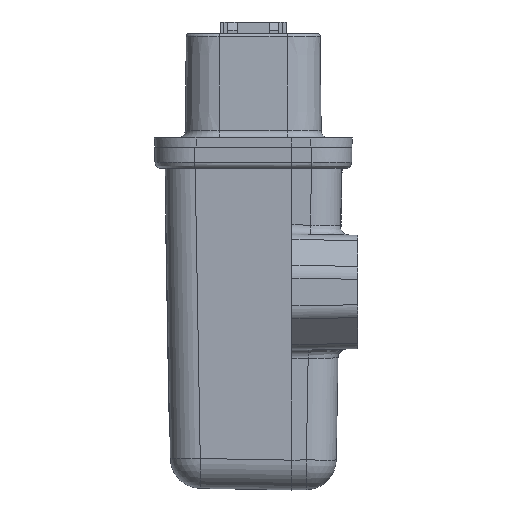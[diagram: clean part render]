
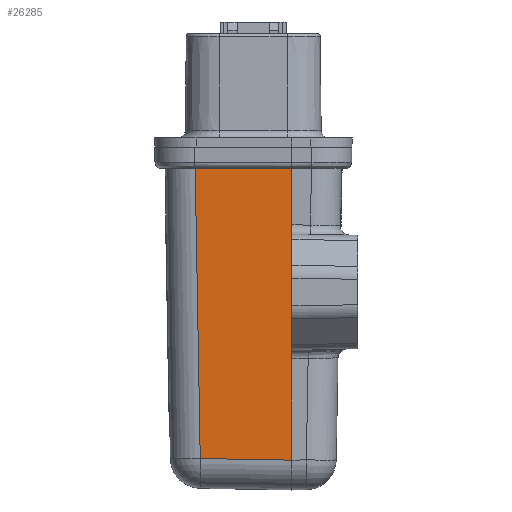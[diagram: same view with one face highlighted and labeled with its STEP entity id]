
A CAD part, left-side view. The second image highlights one B-rep face of the part: STEP entity #26285.
In plain terms, the highlighted planar face has unit normal (-1, 0.018, -0.017) as drawn and (0.017, 1, -0.017) by its records, which use the part's own axes.
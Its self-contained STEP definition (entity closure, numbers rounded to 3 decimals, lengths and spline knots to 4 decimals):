
#2268=LINE('',#40856,#4718);
#2438=LINE('',#42571,#4888);
#2442=LINE('',#42586,#4892);
#2443=LINE('',#42588,#4893);
#2444=LINE('',#42590,#4894);
#2445=LINE('',#42591,#4895);
#4718=VECTOR('',#30994,0.6264);
#4888=VECTOR('',#31472,0.8682);
#4892=VECTOR('',#31486,0.3652);
#4893=VECTOR('',#31487,1.8787);
#4894=VECTOR('',#31488,0.5937);
#4895=VECTOR('',#31489,0.6553);
#7802=PLANE('',#28160);
#9149=FACE_OUTER_BOUND('',#10725,.T.);
#10725=EDGE_LOOP('',(#20527,#20528,#20529,#20530,#20531,#20532));
#12729=VERTEX_POINT('',#40346);
#12755=VERTEX_POINT('',#40532);
#12809=VERTEX_POINT('',#40852);
#12811=VERTEX_POINT('',#40855);
#13073=VERTEX_POINT('',#42587);
#13074=VERTEX_POINT('',#42589);
#15513=EDGE_CURVE('',#12811,#12809,#2268,.T.);
#15850=EDGE_CURVE('',#12755,#12729,#2438,.T.);
#15858=EDGE_CURVE('',#12729,#12811,#2442,.T.);
#15859=EDGE_CURVE('',#13073,#12809,#2443,.T.);
#15860=EDGE_CURVE('',#13074,#13073,#2444,.T.);
#15861=EDGE_CURVE('',#13074,#12755,#2445,.T.);
#20527=ORIENTED_EDGE('',*,*,#15850,.T.);
#20528=ORIENTED_EDGE('',*,*,#15858,.T.);
#20529=ORIENTED_EDGE('',*,*,#15513,.T.);
#20530=ORIENTED_EDGE('',*,*,#15859,.F.);
#20531=ORIENTED_EDGE('',*,*,#15860,.F.);
#20532=ORIENTED_EDGE('',*,*,#15861,.T.);
#26285=ADVANCED_FACE('',(#9149),#7802,.T.);
#28160=AXIS2_PLACEMENT_3D('',#42585,#31484,#31485);
#30994=DIRECTION('',(1.,-0.017,0.));
#31472=DIRECTION('',(0.,0.017,1.));
#31484=DIRECTION('center_axis',(0.017,1.,-0.017));
#31485=DIRECTION('ref_axis',(1.,-0.017,0.));
#31486=DIRECTION('',(0.,0.017,1.));
#31487=DIRECTION('',(0.017,0.017,1.));
#31488=DIRECTION('',(1.,-0.017,0.017));
#31489=DIRECTION('',(0.,0.017,1.));
#40346=CARTESIAN_POINT('',(-0.25,0.9282,-0.5029));
#40532=CARTESIAN_POINT('',(-0.25,0.9131,-1.371));
#40852=CARTESIAN_POINT('',(0.3763,0.9237,-0.1378));
#40855=CARTESIAN_POINT('',(-0.25,0.9346,-0.1378));
#40856=CARTESIAN_POINT('',(0.2918,0.9251,-0.1378));
#42571=CARTESIAN_POINT('',(-0.25,0.9368,-0.0082));
#42585=CARTESIAN_POINT('Origin',(0.572,0.9226,0.0003));
#42586=CARTESIAN_POINT('',(-0.25,0.9368,-0.0082));
#42587=CARTESIAN_POINT('',(0.3436,0.8914,-2.0159));
#42588=CARTESIAN_POINT('',(0.3786,0.9258,-0.01));
#42589=CARTESIAN_POINT('',(-0.25,0.9016,-2.0262));
#42590=CARTESIAN_POINT('',(0.308,0.8921,-2.0165));
#42591=CARTESIAN_POINT('',(-0.25,0.9368,-0.0082));
